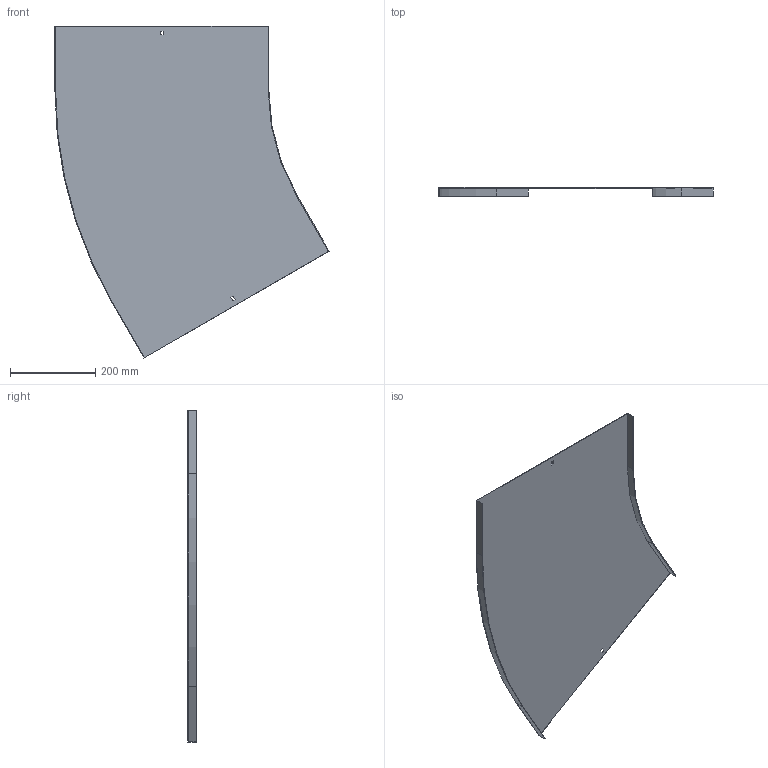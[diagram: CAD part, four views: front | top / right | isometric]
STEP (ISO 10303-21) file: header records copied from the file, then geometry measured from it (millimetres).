
FILE_DESCRIPTION (( 'STEP AP214' ), '1' );
FILE_NAME ('12N5R500.step', '2025-02-21T14:26:16', ( '' ), ( '' ), 'SwSTEP 2.0', 'SolidWorks 2023', '' );
FILE_SCHEMA (( 'AUTOMOTIVE_DESIGN' ));
Length unit declared in the file: millimetre
Products named in the file (1): 12N5R500
Bounding box: 644.79 x 20 x 780.65 mm (x, y, z)
Volume: 560910.8 mm3; surface area: 751672.1 mm2
Topology: 1 solids, 1 shells, 26 faces, 72 edges, 48 vertices
Faces by surface type: plane 22, cylinder 4
Entity records: 855 total; most frequent: CARTESIAN_POINT 147, ORIENTED_EDGE 144, DIRECTION 134, EDGE_CURVE 72, VECTOR 64, LINE 64, VERTEX_POINT 48, AXIS2_PLACEMENT_3D 35
